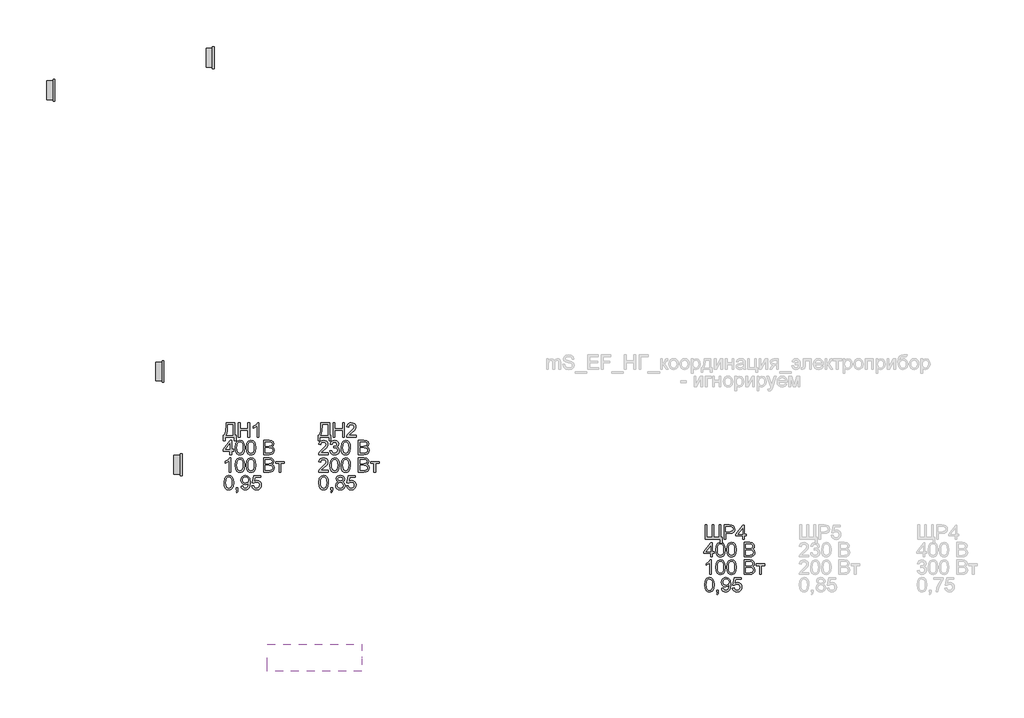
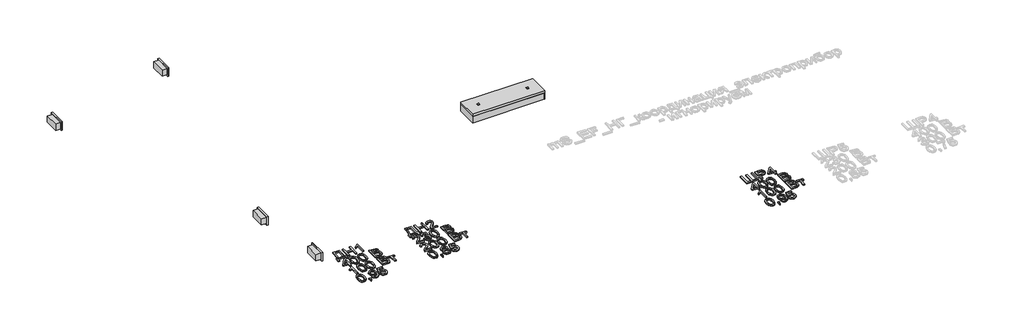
# One storey, part 1 of 3: 7 proxies, 1 light fixture.
"""IFC4 building model written with IfcOpenShell, lengths in millimetres."""

from ifc_helpers import new_model, si_unit, origin, origin_with_axes, place, context, project, spatial, polyline, outline, extrude, transform, mapped, element, save
from components import electrical_fixtures_f98252bb, light_fixture_827c025e

model = new_model("IFC4")

# Units and contexts
model_context = context("Model", 3, world=origin())
ifc_project = project(units=[si_unit("LENGTHUNIT", "METRE", prefix="MILLI")], contexts=[model_context])

# Site, building, storey
site = spatial("IfcSite", under=ifc_project)
building = spatial("IfcBuilding", under=site)
storey = spatial("IfcBuildingStorey", under=building, Name="Координационный план", Elevation=0.0)

# Proxies
placement = place(None, origin())
element("IfcBuildingElementProxy", 1, Name="100 мм Arial 2", ObjectType="100 мм Arial 2", at=placement, inside=storey, context=model_context, shape_type="SweptSolid", body=[
    extrude(outline(polyline([(15244.6100948, 1779.9187079), (15257.1671335, 1779.9187079), (15257.1671335, 1692.0194365), (15293.26862, 1692.0194365), (15293.26862, 1779.9187079), (15305.8256588, 1779.9187079), (15305.8256588, 1692.0194365), (15341.9271452, 1692.0194365), (15341.9271452, 1779.9187079), (15354.484184, 1779.9187079), (15354.484184, 1692.0194365), (15363.9019631, 1692.0194365), (15363.9019631, 1651.2090605), (15351.3449243, 1651.2090605), (15351.3449243, 1679.4623977), (15244.6100948, 1679.4623977), (15244.6100948, 1779.9187079)])), origin_with_axes(), (0.0, 0.0, 1.0), 10.0),
    extrude(outline(polyline([(15376.4590019, 1679.4623977), (15376.4590019, 1779.9187079), (15413.6886598, 1779.9187079), (15428.6982452, 1778.9622147), (15440.8996647, 1774.2655879), (15448.8091276, 1764.5535032), (15451.8012345, 1750.8560303), (15449.7809492, 1739.0163614), (15443.7200933, 1729.1509926), (15432.3862622, 1722.4923284), (15414.5470511, 1720.2727737), (15389.0160406, 1720.2727737), (15389.0160406, 1679.4623977), (15376.4590019, 1679.4623977)]), holes=[polyline([(15389.0160406, 1732.8298125), (15415.2828151, 1732.8298125), (15433.7750167, 1737.4406002), (15437.8769009, 1742.9894869), (15439.2441957, 1750.4145719), (15436.0190969, 1760.8133696), (15427.5455482, 1766.5032778), (15414.9885095, 1767.3616691), (15389.0160406, 1767.3616691), (15389.0160406, 1732.8298125)])]), origin_with_axes(), (0.0, 0.0, 1.0), 10.0),
    extrude(outline(polyline([(15505.1686492, 1679.4623977), (15505.1686492, 1703.0068454), (15459.6493837, 1703.0068454), (15459.6493837, 1715.5638842), (15508.3079089, 1778.349078), (15517.725688, 1778.349078), (15517.725688, 1715.5638842), (15530.2827268, 1715.5638842), (15530.2827268, 1703.0068454), (15517.725688, 1703.0068454), (15517.725688, 1679.4623977), (15505.1686492, 1679.4623977)]), holes=[polyline([(15505.1686492, 1715.5638842), (15505.1686492, 1754.363172), (15475.1004275, 1715.5638842), (15505.1686492, 1715.5638842)])]), origin_with_axes(), (0.0, 0.0, 1.0), 10.0),
    extrude(outline(polyline([(15282.2812111, 1557.4875799), (15282.2812111, 1581.0320276), (15236.7619456, 1581.0320276), (15236.7619456, 1593.5890664), (15285.4204708, 1656.3742602), (15294.8382499, 1656.3742602), (15294.8382499, 1593.5890664), (15307.3952886, 1593.5890664), (15307.3952886, 1581.0320276), (15294.8382499, 1581.0320276), (15294.8382499, 1557.4875799), (15282.2812111, 1557.4875799)]), holes=[polyline([(15282.2812111, 1593.5890664), (15282.2812111, 1632.3883541), (15252.2129893, 1593.5890664), (15282.2812111, 1593.5890664)])]), origin_with_axes(), (0.0, 0.0, 1.0), 10.0),
    extrude(outline(polyline([(15318.3826975, 1606.9063946), (15322.0737802, 1635.8096567), (15333.0366637, 1652.474711), (15351.3449243, 1657.94389), (15366.0111532, 1654.7065285), (15376.1401708, 1645.3745885), (15382.0262827, 1630.5121559), (15384.3071511, 1606.9063946), (15380.6528566, 1578.1257598), (15369.7267613, 1561.4239172), (15361.4954017, 1557.2944418), (15351.3449243, 1555.91795), (15338.2973762, 1558.309183), (15328.3890878, 1565.4828819), (15320.8842951, 1582.4728987), (15318.3826975, 1606.9063946)]), holes=[polyline([(15330.9397363, 1606.93092), (15332.4112643, 1587.1787226), (15336.8258482, 1575.7467896), (15343.3986732, 1570.292939), (15351.3449243, 1568.4749888), (15359.2911754, 1570.2990704), (15365.8640004, 1575.7713151), (15370.2785843, 1587.2093794), (15371.7501123, 1606.93092), (15370.3276353, 1626.2385934), (15366.0602041, 1637.7594312), (15359.4996419, 1643.4799963), (15351.1977715, 1645.3868513), (15343.3373596, 1643.7068568), (15337.022052, 1638.6668735), (15332.4603152, 1626.4286658), (15330.9397363, 1606.93092)])]), origin_with_axes(), (0.0, 0.0, 1.0), 10.0),
    extrude(outline(polyline([(15395.29456, 1606.9063946), (15398.9856427, 1635.8096567), (15409.9485261, 1652.474711), (15428.2567868, 1657.94389), (15442.9230156, 1654.7065285), (15453.0520332, 1645.3745885), (15458.9381452, 1630.5121559), (15461.2190135, 1606.9063946), (15457.5647191, 1578.1257598), (15446.6386238, 1561.4239172), (15438.4072642, 1557.2944418), (15428.2567868, 1555.91795), (15415.2092387, 1558.309183), (15405.3009503, 1565.4828819), (15397.7961576, 1582.4728987), (15395.29456, 1606.9063946)]), holes=[polyline([(15407.8515988, 1606.93092), (15409.3231268, 1587.1787226), (15413.7377107, 1575.7467896), (15420.3105357, 1570.292939), (15428.2567868, 1568.4749888), (15436.2030379, 1570.2990704), (15442.7758628, 1575.7713151), (15447.1904468, 1587.2093794), (15448.6619748, 1606.93092), (15447.2394977, 1626.2385934), (15442.9720666, 1637.7594312), (15436.4115043, 1643.4799963), (15428.109634, 1645.3868513), (15420.249222, 1643.7068568), (15413.9339144, 1638.6668735), (15409.3721777, 1626.4286658), (15407.8515988, 1606.93092)])]), origin_with_axes(), (0.0, 0.0, 1.0), 10.0),
    extrude(outline(polyline([(15516.1560582, 1557.4875799), (15516.1560582, 1657.94389), (15554.4893621, 1657.94389), (15573.2636065, 1654.9885713), (15584.3491173, 1645.9018861), (15588.3590311, 1633.0505417), (15584.9867795, 1621.3151061), (15574.7964482, 1612.4246245), (15587.169546, 1603.0558964), (15591.4982908, 1587.4331743), (15588.5429721, 1573.9319051), (15581.2221204, 1564.3179223), (15570.2960251, 1559.2166253), (15554.1950565, 1557.4875799), (15516.1560582, 1557.4875799)]), holes=[polyline([(15528.7130969, 1617.133514), (15551.644408, 1617.133514), (15565.0353126, 1618.2126346), (15573.0919283, 1622.8602104), (15575.8019923, 1631.0394535), (15573.2758693, 1639.2309592), (15566.0408567, 1644.0747388), (15549.9030998, 1645.3868513), (15528.7130969, 1645.3868513), (15528.7130969, 1617.133514)]), polyline([(15528.7130969, 1570.0446187), (15554.4648366, 1570.0446187), (15563.7845138, 1570.535128), (15571.6694512, 1573.2697175), (15576.8933756, 1578.8492611), (15578.941252, 1587.310547), (15576.5377563, 1597.0716826), (15568.7509207, 1602.8964808), (15553.2385633, 1604.5764753), (15528.7130969, 1604.5764753), (15528.7130969, 1570.0446187)])]), origin_with_axes(), (0.0, 0.0, 1.0), 10.0),
    extrude(outline(polyline([(15288.5597305, 1435.512762), (15276.0026917, 1435.512762), (15276.0026917, 1513.7980506), (15264.1078405, 1505.324502), (15250.8886142, 1498.984669), (15250.8886142, 1510.8549947), (15269.2949767, 1522.602693), (15280.4663266, 1535.9690722), (15288.5597305, 1535.9690722), (15288.5597305, 1435.512762)])), origin_with_axes(), (0.0, 0.0, 1.0), 10.0),
    extrude(outline(polyline([(15318.3826975, 1484.9315767), (15322.0737802, 1513.8348388), (15333.0366637, 1530.4998932), (15351.3449243, 1535.9690722), (15366.0111532, 1532.7317106), (15376.1401708, 1523.3997707), (15382.0262827, 1508.5373381), (15384.3071511, 1484.9315767), (15380.6528566, 1456.150942), (15369.7267613, 1439.4490994), (15361.4954017, 1435.319624), (15351.3449243, 1433.9431322), (15338.2973762, 1436.3343652), (15328.3890878, 1443.5080641), (15320.8842951, 1460.4980809), (15318.3826975, 1484.9315767)]), holes=[polyline([(15330.9397363, 1484.9561022), (15332.4112643, 1465.2039047), (15336.8258482, 1453.7719717), (15343.3986732, 1448.3181212), (15351.3449243, 1446.500171), (15359.2911754, 1448.3242525), (15365.8640004, 1453.7964972), (15370.2785843, 1465.2345616), (15371.7501123, 1484.9561022), (15370.3276353, 1504.2637756), (15366.0602041, 1515.7846134), (15359.4996419, 1521.5051784), (15351.1977715, 1523.4120334), (15343.3373596, 1521.732039), (15337.022052, 1516.6920557), (15332.4603152, 1504.4538479), (15330.9397363, 1484.9561022)])]), origin_with_axes(), (0.0, 0.0, 1.0), 10.0),
    extrude(outline(polyline([(15395.29456, 1484.9315767), (15398.9856427, 1513.8348388), (15409.9485261, 1530.4998932), (15428.2567868, 1535.9690722), (15442.9230156, 1532.7317106), (15453.0520332, 1523.3997707), (15458.9381452, 1508.5373381), (15461.2190135, 1484.9315767), (15457.5647191, 1456.150942), (15446.6386238, 1439.4490994), (15438.4072642, 1435.319624), (15428.2567868, 1433.9431322), (15415.2092387, 1436.3343652), (15405.3009503, 1443.5080641), (15397.7961576, 1460.4980809), (15395.29456, 1484.9315767)]), holes=[polyline([(15407.8515988, 1484.9561022), (15409.3231268, 1465.2039047), (15413.7377107, 1453.7719717), (15420.3105357, 1448.3181212), (15428.2567868, 1446.500171), (15436.2030379, 1448.3242525), (15442.7758628, 1453.7964972), (15447.1904468, 1465.2345616), (15448.6619748, 1484.9561022), (15447.2394977, 1504.2637756), (15442.9720666, 1515.7846134), (15436.4115043, 1521.5051784), (15428.109634, 1523.4120334), (15420.249222, 1521.732039), (15413.9339144, 1516.6920557), (15409.3721777, 1504.4538479), (15407.8515988, 1484.9561022)])]), origin_with_axes(), (0.0, 0.0, 1.0), 10.0),
    extrude(outline(polyline([(15516.1560582, 1435.512762), (15516.1560582, 1535.9690722), (15554.4893621, 1535.9690722), (15573.2636065, 1533.0137535), (15584.3491173, 1523.9270682), (15588.3590311, 1511.0757239), (15584.9867795, 1499.3402882), (15574.7964482, 1490.4498067), (15587.169546, 1481.0810785), (15591.4982908, 1465.4583565), (15588.5429721, 1451.9570872), (15581.2221204, 1442.3431044), (15570.2960251, 1437.2418074), (15554.1950565, 1435.512762), (15516.1560582, 1435.512762)]), holes=[polyline([(15528.7130969, 1495.1586962), (15551.644408, 1495.1586962), (15565.0353126, 1496.2378167), (15573.0919283, 1500.8853926), (15575.8019923, 1509.0646356), (15573.2758693, 1517.2561414), (15566.0408567, 1522.099921), (15549.9030998, 1523.4120334), (15528.7130969, 1523.4120334), (15528.7130969, 1495.1586962)]), polyline([(15528.7130969, 1448.0698008), (15554.4648366, 1448.0698008), (15563.7845138, 1448.5603101), (15571.6694512, 1451.2948996), (15576.8933756, 1456.8744432), (15578.941252, 1465.3357291), (15576.5377563, 1475.0968647), (15568.7509207, 1480.921663), (15553.2385633, 1482.6016574), (15528.7130969, 1482.6016574), (15528.7130969, 1448.0698008)])]), origin_with_axes(), (0.0, 0.0, 1.0), 10.0),
    extrude(outline(polyline([(15600.9160698, 1509.2853648), (15660.562004, 1509.2853648), (15660.562004, 1496.728326), (15637.0175563, 1496.728326), (15637.0175563, 1435.512762), (15624.4605175, 1435.512762), (15624.4605175, 1496.728326), (15600.9160698, 1496.728326), (15600.9160698, 1509.2853648)])), origin_with_axes(), (0.0, 0.0, 1.0), 10.0),
    extrude(outline(polyline([(15241.4708351, 1362.9567589), (15245.1619178, 1391.860021), (15256.1248012, 1408.5250754), (15274.4330619, 1413.9942544), (15289.0992907, 1410.7568928), (15299.2283083, 1401.4249529), (15305.1144203, 1386.5625202), (15307.3952886, 1362.9567589), (15303.7409941, 1334.1761241), (15292.8148989, 1317.4742816), (15284.5835392, 1313.3448062), (15274.4330619, 1311.9683144), (15261.3855138, 1314.3595473), (15251.4772254, 1321.5332462), (15243.9724327, 1338.523263), (15241.4708351, 1362.9567589)]), holes=[polyline([(15254.0278739, 1362.9812844), (15255.4994018, 1343.2290869), (15259.9139858, 1331.7971539), (15266.4868108, 1326.3433033), (15274.4330619, 1324.5253531), (15282.379313, 1326.3494347), (15288.9521379, 1331.8216794), (15293.3667219, 1343.2597437), (15294.8382499, 1362.9812844), (15293.4157728, 1382.2889577), (15289.1483417, 1393.8097956), (15282.5877794, 1399.5303606), (15274.2859091, 1401.4372156), (15266.4254971, 1399.7572211), (15260.1101895, 1394.7172378), (15255.5484528, 1382.4790301), (15254.0278739, 1362.9812844)])]), origin_with_axes(), (0.0, 0.0, 1.0), 10.0),
    extrude(outline(polyline([(15324.6612169, 1313.5379442), (15324.6612169, 1326.094983), (15337.2182557, 1326.094983), (15337.2182557, 1313.5379442), (15334.9619128, 1300.6988626), (15327.8004766, 1293.1327562), (15324.6612169, 1297.8416457), (15329.2720046, 1303.2617738), (15330.9152108, 1313.5379442), (15324.6612169, 1313.5379442)])), origin_with_axes(), (0.0, 0.0, 1.0), 10.0),
    extrude(outline(polyline([(15359.1930735, 1338.6520217), (15371.7501123, 1340.2216516), (15377.3909696, 1328.2409613), (15388.0840729, 1324.5253531), (15398.2498787, 1326.9165861), (15405.1415347, 1333.3054701), (15409.2495504, 1344.2193026), (15411.0644349, 1358.7874296), (15410.9908585, 1361.2399762), (15400.94768, 1351.7240953), (15387.1766306, 1348.0698008), (15375.7263035, 1350.3016183), (15366.1950942, 1356.9970706), (15359.7663563, 1367.340686), (15357.6234437, 1380.5169928), (15359.8705896, 1394.1286266), (15366.6120271, 1404.7972045), (15376.737979, 1411.6949919), (15389.138668, 1413.9942544), (15407.0299957, 1408.7458046), (15419.3417798, 1393.7852701), (15423.5478972, 1365.6790857), (15419.3540425, 1335.1816683), (15414.1393152, 1325.1906064), (15406.8828429, 1317.9034772), (15397.8973251, 1313.4521051), (15387.4954617, 1311.9683144), (15376.7594388, 1313.7188195), (15368.1939197, 1318.970335), (15362.2035745, 1327.391767), (15359.1930735, 1338.6520217)]), holes=[polyline([(15410.9908585, 1380.8112984), (15409.6358265, 1389.3216352), (15405.5707304, 1395.8699347), (15399.2615542, 1400.0453954), (15391.1742817, 1401.4372156), (15382.7865722, 1399.9380965), (15376.0665944, 1395.4407391), (15371.6520104, 1388.5582801), (15370.1804825, 1379.9038561), (15371.5723027, 1372.1446117), (15375.7477633, 1365.985654), (15382.3021942, 1361.9665432), (15390.8309251, 1360.6268396), (15405.313213, 1365.985654), (15409.5714471, 1372.3714723), (15410.9908585, 1380.8112984)])]), origin_with_axes(), (0.0, 0.0, 1.0), 10.0),
    extrude(outline(polyline([(15434.5353062, 1340.2216516), (15447.0923449, 1341.7912814), (15453.4199152, 1328.8540979), (15466.5410397, 1324.5253531), (15475.5418859, 1326.0306036), (15482.2863891, 1330.5463551), (15486.498638, 1337.5514414), (15487.9027209, 1346.5246964), (15482.6420084, 1361.43618), (15476.0354609, 1365.5380642), (15466.7372435, 1366.905359), (15455.7130463, 1364.7225925), (15448.6619748, 1359.0572097), (15436.104936, 1360.6268396), (15447.0923449, 1412.4246245), (15495.7508702, 1412.4246245), (15495.7508702, 1399.8675857), (15457.245888, 1399.8675857), (15451.8748109, 1372.2028597), (15460.8450002, 1377.6475132), (15470.2443852, 1379.4623977), (15481.9767551, 1377.2121862), (15491.7164309, 1370.4615516), (15498.2739275, 1360.1731185), (15500.4597597, 1347.3095114), (15498.491591, 1334.7524726), (15492.587085, 1324.0103183), (15481.280845, 1314.9788154), (15466.4919888, 1311.9683144), (15454.1587449, 1313.9027605), (15444.33323, 1319.706099), (15437.5979238, 1328.7038795), (15434.5353062, 1340.2216516)])), origin_with_axes(), (0.0, 0.0, 1.0), 10.0),
])
element("IfcBuildingElementProxy", 2, Name="100 мм Arial 2", ObjectType="100 мм Arial 2", at=placement, inside=storey, context=model_context, shape_type="SweptSolid", body=[
    extrude(outline(polyline([(11910.3327092, 2490.9766905), (11969.9786433, 2490.9766905), (11969.9786433, 2403.0774191), (11979.3964224, 2403.0774191), (11979.3964224, 2366.9759326), (11966.8393837, 2366.9759326), (11966.8393837, 2390.5203803), (11902.48456, 2390.5203803), (11902.48456, 2366.9759326), (11889.9275212, 2366.9759326), (11889.9275212, 2403.0774191), (11897.7756704, 2403.0774191), (11907.1934495, 2430.4907591), (11910.3327092, 2476.4330889), (11910.3327092, 2490.9766905)]), holes=[polyline([(11957.4216046, 2478.4196517), (11922.889748, 2478.4196517), (11922.889748, 2473.3674057), (11920.3390995, 2438.9581764), (11916.5621776, 2419.0741545), (11910.3327092, 2403.0774191), (11957.4216046, 2403.0774191), (11957.4216046, 2478.4196517)])]), origin_with_axes(), (0.0, 0.0, 1.0), 10.0),
    extrude(outline(polyline([(11995.0927209, 2390.5203803), (11995.0927209, 2490.9766905), (12007.6497597, 2490.9766905), (12007.6497597, 2450.1663145), (12061.0171744, 2450.1663145), (12061.0171744, 2490.9766905), (12073.5742132, 2490.9766905), (12073.5742132, 2390.5203803), (12061.0171744, 2390.5203803), (12061.0171744, 2437.6092757), (12007.6497597, 2437.6092757), (12007.6497597, 2390.5203803), (11995.0927209, 2390.5203803)])), origin_with_axes(), (0.0, 0.0, 1.0), 10.0),
    extrude(outline(polyline([(12137.9290369, 2390.5203803), (12125.3719981, 2390.5203803), (12125.3719981, 2468.8056689), (12113.4771469, 2460.3321203), (12100.2579206, 2453.9922872), (12100.2579206, 2465.8626129), (12118.6642831, 2477.6103113), (12129.835633, 2490.9766905), (12137.9290369, 2490.9766905), (12137.9290369, 2390.5203803)])), origin_with_axes(), (0.0, 0.0, 1.0), 10.0),
    extrude(outline(polyline([(11937.0164166, 2268.5455625), (11937.0164166, 2292.0900102), (11891.497151, 2292.0900102), (11891.497151, 2304.647049), (11940.1556763, 2367.4322428), (11949.5734553, 2367.4322428), (11949.5734553, 2304.647049), (11962.1304941, 2304.647049), (11962.1304941, 2292.0900102), (11949.5734553, 2292.0900102), (11949.5734553, 2268.5455625), (11937.0164166, 2268.5455625)]), holes=[polyline([(11937.0164166, 2304.647049), (11937.0164166, 2343.4463367), (11906.9481948, 2304.647049), (11937.0164166, 2304.647049)])]), origin_with_axes(), (0.0, 0.0, 1.0), 10.0),
    extrude(outline(polyline([(11973.117903, 2317.9643772), (11976.8089857, 2346.8676393), (11987.7718692, 2363.5326936), (12006.0801298, 2369.0018726), (12020.7463587, 2365.7645111), (12030.8753763, 2356.4325711), (12036.7614882, 2341.5701385), (12039.0423566, 2317.9643772), (12035.3880621, 2289.1837424), (12024.4619668, 2272.4818998), (12016.2306072, 2268.3524244), (12006.0801298, 2266.9759326), (11993.0325817, 2269.3671656), (11983.1242933, 2276.5408645), (11975.6195006, 2293.5308813), (11973.117903, 2317.9643772)]), holes=[polyline([(11985.6749418, 2317.9889026), (11987.1464698, 2298.2367052), (11991.5610537, 2286.8047722), (11998.1338787, 2281.3509216), (12006.0801298, 2279.5329714), (12014.0263809, 2281.357053), (12020.5992059, 2286.8292977), (12025.0137898, 2298.267362), (12026.4853178, 2317.9889026), (12025.0628408, 2337.296576), (12020.7954096, 2348.8174138), (12014.2348474, 2354.5379789), (12005.932977, 2356.4448339), (11998.072565, 2354.7648394), (11991.7572575, 2349.7248561), (11987.1955207, 2337.4866484), (11985.6749418, 2317.9889026)])]), origin_with_axes(), (0.0, 0.0, 1.0), 10.0),
    extrude(outline(polyline([(12050.0297655, 2317.9643772), (12053.7208482, 2346.8676393), (12064.6837316, 2363.5326936), (12082.9919923, 2369.0018726), (12097.6582211, 2365.7645111), (12107.7872387, 2356.4325711), (12113.6733507, 2341.5701385), (12115.954219, 2317.9643772), (12112.2999245, 2289.1837424), (12101.3738293, 2272.4818998), (12093.1424696, 2268.3524244), (12082.9919923, 2266.9759326), (12069.9444442, 2269.3671656), (12060.0361558, 2276.5408645), (12052.5313631, 2293.5308813), (12050.0297655, 2317.9643772)]), holes=[polyline([(12062.5868043, 2317.9889026), (12064.0583322, 2298.2367052), (12068.4729162, 2286.8047722), (12075.0457412, 2281.3509216), (12082.9919923, 2279.5329714), (12090.9382434, 2281.357053), (12097.5110683, 2286.8292977), (12101.9256523, 2298.267362), (12103.3971803, 2317.9889026), (12101.9747032, 2337.296576), (12097.7072721, 2348.8174138), (12091.1467098, 2354.5379789), (12082.8448395, 2356.4448339), (12074.9844275, 2354.7648394), (12068.6691199, 2349.7248561), (12064.1073832, 2337.4866484), (12062.5868043, 2317.9889026)])]), origin_with_axes(), (0.0, 0.0, 1.0), 10.0),
    extrude(outline(polyline([(12170.8912636, 2268.5455625), (12170.8912636, 2369.0018726), (12209.2245675, 2369.0018726), (12227.998812, 2366.0465539), (12239.0843228, 2356.9598687), (12243.0942366, 2344.1085243), (12239.7219849, 2332.3730887), (12229.5316537, 2323.4826071), (12241.9047514, 2314.113879), (12246.2334963, 2298.4911569), (12243.2781776, 2284.9898877), (12235.9573259, 2275.3759049), (12225.0312306, 2270.2746079), (12208.9302619, 2268.5455625), (12170.8912636, 2268.5455625)]), holes=[polyline([(12183.4483024, 2328.1914966), (12206.3796134, 2328.1914966), (12219.7705181, 2329.2706172), (12227.8271338, 2333.918193), (12230.5371978, 2342.0974361), (12228.0110748, 2350.2889418), (12220.7760622, 2355.1327214), (12204.6383053, 2356.4448339), (12183.4483024, 2356.4448339), (12183.4483024, 2328.1914966)]), polyline([(12183.4483024, 2281.1026013), (12209.2000421, 2281.1026013), (12218.5197193, 2281.5931106), (12226.4046567, 2284.3277001), (12231.628581, 2289.9072437), (12233.6764575, 2298.3685296), (12231.2729618, 2308.1296652), (12223.4861262, 2313.9544634), (12207.9737688, 2315.6344579), (12183.4483024, 2315.6344579), (12183.4483024, 2281.1026013)])]), origin_with_axes(), (0.0, 0.0, 1.0), 10.0),
    extrude(outline(polyline([(11943.294936, 2146.5707446), (11930.7378972, 2146.5707446), (11930.7378972, 2224.8560332), (11918.843046, 2216.3824846), (11905.6238197, 2210.0426515), (11905.6238197, 2221.9129773), (11924.0301821, 2233.6606756), (11935.2015321, 2247.0270548), (11943.294936, 2247.0270548), (11943.294936, 2146.5707446)])), origin_with_axes(), (0.0, 0.0, 1.0), 10.0),
    extrude(outline(polyline([(11973.117903, 2195.9895593), (11976.8089857, 2224.8928214), (11987.7718692, 2241.5578758), (12006.0801298, 2247.0270548), (12020.7463587, 2243.7896932), (12030.8753763, 2234.4577533), (12036.7614882, 2219.5953207), (12039.0423566, 2195.9895593), (12035.3880621, 2167.2089246), (12024.4619668, 2150.507082), (12016.2306072, 2146.3776066), (12006.0801298, 2145.0011148), (11993.0325817, 2147.3923478), (11983.1242933, 2154.5660467), (11975.6195006, 2171.5560635), (11973.117903, 2195.9895593)]), holes=[polyline([(11985.6749418, 2196.0140848), (11987.1464698, 2176.2618873), (11991.5610537, 2164.8299543), (11998.1338787, 2159.3761038), (12006.0801298, 2157.5581536), (12014.0263809, 2159.3822351), (12020.5992059, 2164.8544798), (12025.0137898, 2176.2925442), (12026.4853178, 2196.0140848), (12025.0628408, 2215.3217582), (12020.7954096, 2226.842596), (12014.2348474, 2232.563161), (12005.932977, 2234.470016), (11998.072565, 2232.7900216), (11991.7572575, 2227.7500382), (11987.1955207, 2215.5118305), (11985.6749418, 2196.0140848)])]), origin_with_axes(), (0.0, 0.0, 1.0), 10.0),
    extrude(outline(polyline([(12050.0297655, 2195.9895593), (12053.7208482, 2224.8928214), (12064.6837316, 2241.5578758), (12082.9919923, 2247.0270548), (12097.6582211, 2243.7896932), (12107.7872387, 2234.4577533), (12113.6733507, 2219.5953207), (12115.954219, 2195.9895593), (12112.2999245, 2167.2089246), (12101.3738293, 2150.507082), (12093.1424696, 2146.3776066), (12082.9919923, 2145.0011148), (12069.9444442, 2147.3923478), (12060.0361558, 2154.5660467), (12052.5313631, 2171.5560635), (12050.0297655, 2195.9895593)]), holes=[polyline([(12062.5868043, 2196.0140848), (12064.0583322, 2176.2618873), (12068.4729162, 2164.8299543), (12075.0457412, 2159.3761038), (12082.9919923, 2157.5581536), (12090.9382434, 2159.3822351), (12097.5110683, 2164.8544798), (12101.9256523, 2176.2925442), (12103.3971803, 2196.0140848), (12101.9747032, 2215.3217582), (12097.7072721, 2226.842596), (12091.1467098, 2232.563161), (12082.8448395, 2234.470016), (12074.9844275, 2232.7900216), (12068.6691199, 2227.7500382), (12064.1073832, 2215.5118305), (12062.5868043, 2196.0140848)])]), origin_with_axes(), (0.0, 0.0, 1.0), 10.0),
    extrude(outline(polyline([(12170.8912636, 2146.5707446), (12170.8912636, 2247.0270548), (12209.2245675, 2247.0270548), (12227.998812, 2244.0717361), (12239.0843228, 2234.9850508), (12243.0942366, 2222.1337065), (12239.7219849, 2210.3982708), (12229.5316537, 2201.5077893), (12241.9047514, 2192.1390611), (12246.2334963, 2176.5163391), (12243.2781776, 2163.0150698), (12235.9573259, 2153.401087), (12225.0312306, 2148.29979), (12208.9302619, 2146.5707446), (12170.8912636, 2146.5707446)]), holes=[polyline([(12183.4483024, 2159.1277834), (12209.2000421, 2159.1277834), (12218.5197193, 2159.6182927), (12226.4046567, 2162.3528822), (12231.628581, 2167.9324258), (12233.6764575, 2176.3937117), (12231.2729618, 2186.1548473), (12223.4861262, 2191.9796456), (12207.9737688, 2193.65964), (12183.4483024, 2193.65964), (12183.4483024, 2159.1277834)]), polyline([(12183.4483024, 2206.2166788), (12206.3796134, 2206.2166788), (12219.7705181, 2207.2957993), (12227.8271338, 2211.9433752), (12230.5371978, 2220.1226182), (12228.0110748, 2228.314124), (12220.7760622, 2233.1579036), (12204.6383053, 2234.470016), (12183.4483024, 2234.470016), (12183.4483024, 2206.2166788)])]), origin_with_axes(), (0.0, 0.0, 1.0), 10.0),
    extrude(outline(polyline([(12255.6512753, 2220.3433474), (12315.2972095, 2220.3433474), (12315.2972095, 2207.7863086), (12291.7527618, 2207.7863086), (12291.7527618, 2146.5707446), (12279.195723, 2146.5707446), (12279.195723, 2207.7863086), (12255.6512753, 2207.7863086), (12255.6512753, 2220.3433474)])), origin_with_axes(), (0.0, 0.0, 1.0), 10.0),
    extrude(outline(polyline([(11896.2060406, 2074.0147415), (11899.8971233, 2102.9180036), (11910.8600067, 2119.583058), (11929.1682673, 2125.052237), (11943.8344962, 2121.8148754), (11953.9635138, 2112.4829354), (11959.8496257, 2097.6205028), (11962.1304941, 2074.0147415), (11958.4761996, 2045.2341067), (11947.5501044, 2028.5322641), (11939.3187447, 2024.4027888), (11929.1682673, 2023.026297), (11916.1207193, 2025.4175299), (11906.2124308, 2032.5912288), (11898.7076381, 2049.5812456), (11896.2060406, 2074.0147415)]), holes=[polyline([(11908.7630793, 2074.039267), (11910.2346073, 2054.2870695), (11914.6491913, 2042.8551365), (11921.2220163, 2037.4012859), (11929.1682673, 2035.5833357), (11937.1145184, 2037.4074173), (11943.6873434, 2042.879662), (11948.1019274, 2054.3177263), (11949.5734553, 2074.039267), (11948.1509783, 2093.3469403), (11943.8835472, 2104.8677781), (11937.3229849, 2110.5883432), (11929.0211145, 2112.4951982), (11921.1607026, 2110.8152037), (11914.845395, 2105.7752204), (11910.2836583, 2093.5370127), (11908.7630793, 2074.039267)])]), origin_with_axes(), (0.0, 0.0, 1.0), 10.0),
    extrude(outline(polyline([(11979.3964224, 2024.5959268), (11979.3964224, 2037.1529656), (11991.9534612, 2037.1529656), (11991.9534612, 2024.5959268), (11989.6971183, 2011.7568452), (11982.5356821, 2004.1907388), (11979.3964224, 2008.8996283), (11984.0072101, 2014.3197564), (11985.6504163, 2024.5959268), (11979.3964224, 2024.5959268)])), origin_with_axes(), (0.0, 0.0, 1.0), 10.0),
    extrude(outline(polyline([(12013.928279, 2049.7100043), (12026.4853178, 2051.2796342), (12032.1261751, 2039.2989439), (12042.8192784, 2035.5833357), (12052.9850842, 2037.9745687), (12059.8767402, 2044.3634527), (12063.9847558, 2055.2772852), (12065.7996404, 2069.8454122), (12065.726064, 2072.2979588), (12055.6828855, 2062.7820779), (12041.9118361, 2059.1277834), (12030.461509, 2061.3596009), (12020.9302997, 2068.0550532), (12014.5015618, 2078.3986686), (12012.3586492, 2091.5749754), (12014.605795, 2105.1866092), (12021.3472326, 2115.8551871), (12031.4731845, 2122.7529745), (12043.8738734, 2125.052237), (12061.7652011, 2119.8037872), (12074.0769852, 2104.8432527), (12078.2831027, 2076.7370683), (12074.089248, 2046.2396509), (12068.8745207, 2036.248589), (12061.6180483, 2028.9614598), (12052.6325306, 2024.5100877), (12042.2306672, 2023.026297), (12031.4946443, 2024.7768021), (12022.9291252, 2030.0283176), (12016.93878, 2038.4497496), (12013.928279, 2049.7100043)]), holes=[polyline([(12065.726064, 2091.869281), (12064.3710319, 2100.3796178), (12060.3059359, 2106.9279173), (12053.9967597, 2111.103378), (12045.9094872, 2112.4951982), (12037.5217777, 2110.9960791), (12030.8017999, 2106.4987217), (12026.3872159, 2099.6162627), (12024.915688, 2090.9618387), (12026.3075082, 2083.2025943), (12030.4829688, 2077.0436366), (12037.0373997, 2073.0245258), (12045.5661306, 2071.6848222), (12060.0484185, 2077.0436366), (12064.3066526, 2083.4294549), (12065.726064, 2091.869281)])]), origin_with_axes(), (0.0, 0.0, 1.0), 10.0),
    extrude(outline(polyline([(12089.2705116, 2051.2796342), (12101.8275504, 2052.849264), (12108.1551207, 2039.9120805), (12121.2762452, 2035.5833357), (12130.2770914, 2037.0885862), (12137.0215946, 2041.6043377), (12141.2338435, 2048.609424), (12142.6379264, 2057.582679), (12137.3772139, 2072.4941626), (12130.7706664, 2076.5960468), (12121.472449, 2077.9633416), (12110.4482518, 2075.7805751), (12103.3971803, 2070.1151923), (12090.8401415, 2071.6848222), (12101.8275504, 2123.4826071), (12150.4860756, 2123.4826071), (12150.4860756, 2110.9255683), (12111.9810935, 2110.9255683), (12106.6100164, 2083.2608423), (12115.5802057, 2088.7054958), (12124.9795906, 2090.5203803), (12136.7119606, 2088.2701688), (12146.4516364, 2081.5195342), (12153.009133, 2071.2311011), (12155.1949652, 2058.367494), (12153.2267965, 2045.8104552), (12147.3222905, 2035.0683009), (12136.0160505, 2026.0367979), (12121.2271943, 2023.026297), (12108.8939504, 2024.9607431), (12099.0684355, 2030.7640816), (12092.3331293, 2039.7618621), (12089.2705116, 2051.2796342)])), origin_with_axes(), (0.0, 0.0, 1.0), 10.0),
])
element("IfcBuildingElementProxy", 3, Name="100 мм Arial 2", ObjectType="100 мм Arial 2", at=placement, inside=storey, context=model_context, shape_type="SweptSolid", body=[
    extrude(outline(polyline([(12570.3327092, 2490.9766905), (12629.9786433, 2490.9766905), (12629.9786433, 2403.0774191), (12639.3964224, 2403.0774191), (12639.3964224, 2366.9759326), (12626.8393837, 2366.9759326), (12626.8393837, 2390.5203803), (12562.48456, 2390.5203803), (12562.48456, 2366.9759326), (12549.9275212, 2366.9759326), (12549.9275212, 2403.0774191), (12557.7756704, 2403.0774191), (12567.1934495, 2430.4907591), (12570.3327092, 2476.4330889), (12570.3327092, 2490.9766905)]), holes=[polyline([(12617.4216046, 2478.4196517), (12582.889748, 2478.4196517), (12582.889748, 2473.3674057), (12580.3390995, 2438.9581764), (12576.5621776, 2419.0741545), (12570.3327092, 2403.0774191), (12617.4216046, 2403.0774191), (12617.4216046, 2478.4196517)])]), origin_with_axes(), (0.0, 0.0, 1.0), 10.0),
    extrude(outline(polyline([(12655.0927209, 2390.5203803), (12655.0927209, 2490.9766905), (12667.6497597, 2490.9766905), (12667.6497597, 2450.1663145), (12721.0171744, 2450.1663145), (12721.0171744, 2490.9766905), (12733.5742132, 2490.9766905), (12733.5742132, 2390.5203803), (12721.0171744, 2390.5203803), (12721.0171744, 2437.6092757), (12667.6497597, 2437.6092757), (12667.6497597, 2390.5203803), (12655.0927209, 2390.5203803)])), origin_with_axes(), (0.0, 0.0, 1.0), 10.0),
    extrude(outline(polyline([(12815.1949652, 2403.0774191), (12815.1949652, 2390.5203803), (12749.2705116, 2390.5203803), (12750.6194123, 2399.17787), (12758.2468323, 2412.5074609), (12773.9676563, 2427.0633252), (12795.6481685, 2447.983548), (12801.0682966, 2462.2083185), (12795.9547368, 2473.7230249), (12782.6006204, 2478.4196517), (12768.6824183, 2473.8333895), (12763.3971803, 2461.1537234), (12750.8401415, 2462.7233533), (12753.884365, 2474.8695905), (12760.466387, 2483.7416779), (12770.2428511, 2489.1679373), (12782.8704005, 2490.9766905), (12795.5899205, 2488.9656022), (12805.3479904, 2482.9323375), (12811.5559991, 2473.9192286), (12813.6253353, 2462.9686079), (12811.3935179, 2451.061494), (12803.9745643, 2438.7497099), (12785.9851348, 2421.5450953), (12771.5396351, 2409.4663031), (12765.8742524, 2403.0774191), (12815.1949652, 2403.0774191)])), origin_with_axes(), (0.0, 0.0, 1.0), 10.0),
    extrude(outline(polyline([(12620.5608643, 2281.1026013), (12620.5608643, 2268.5455625), (12554.6364107, 2268.5455625), (12555.9853114, 2277.2030521), (12563.6127314, 2290.5326431), (12579.3335553, 2305.0885073), (12601.0140676, 2326.0087301), (12606.4341957, 2340.2335006), (12601.3206359, 2351.7482071), (12587.9665195, 2356.4448339), (12574.0483173, 2351.8585717), (12568.7630793, 2339.1789056), (12556.2060406, 2340.7485354), (12559.2502641, 2352.8947726), (12565.8322861, 2361.7668601), (12575.6087501, 2367.1931195), (12588.2362996, 2369.0018726), (12600.9558196, 2366.9907844), (12610.7138895, 2360.9575197), (12616.9218982, 2351.9444108), (12618.9912344, 2340.9937901), (12616.759417, 2329.0866762), (12609.3404634, 2316.7748921), (12591.3510339, 2299.5702774), (12576.9055342, 2287.4914852), (12571.2401514, 2281.1026013), (12620.5608643, 2281.1026013)])), origin_with_axes(), (0.0, 0.0, 1.0), 10.0),
    extrude(outline(polyline([(12633.117903, 2295.2292699), (12645.6749418, 2296.7988997), (12652.603386, 2283.5796734), (12665.565095, 2279.5329714), (12674.1735337, 2280.9247916), (12680.8199351, 2285.1002523), (12686.4853178, 2298.8835644), (12680.868986, 2311.8697988), (12666.5951646, 2317.007884), (12657.7905222, 2315.6344579), (12659.1884738, 2328.1914966), (12661.199562, 2328.0443438), (12675.4488579, 2331.6495874), (12680.1945357, 2336.2235869), (12681.7764283, 2342.7350982), (12677.1901661, 2352.5575475), (12665.3688913, 2356.4448339), (12653.4004637, 2352.5207593), (12647.2445717, 2340.7485354), (12634.6875329, 2342.3181653), (12638.3847469, 2353.5937484), (12644.9637033, 2362.0121147), (12653.9645494, 2367.2544332), (12664.9274329, 2369.0018726), (12680.0719084, 2365.5560446), (12690.6669098, 2356.1382655), (12694.333467, 2343.4708622), (12690.8508508, 2331.8948421), (12680.5501549, 2323.580709), (12694.2353652, 2314.9967957), (12699.0423566, 2298.6628352), (12696.6388609, 2286.4246275), (12689.4283738, 2276.197508), (12678.5451981, 2269.2813265), (12665.1236366, 2266.9759326), (12652.9835308, 2268.9441013), (12643.0997678, 2274.8486073), (12636.2265059, 2283.8801103), (12633.117903, 2295.2292699)])), origin_with_axes(), (0.0, 0.0, 1.0), 10.0),
    extrude(outline(polyline([(12710.0297655, 2317.9643772), (12713.7208482, 2346.8676393), (12724.6837316, 2363.5326936), (12742.9919923, 2369.0018726), (12757.6582211, 2365.7645111), (12767.7872387, 2356.4325711), (12773.6733507, 2341.5701385), (12775.954219, 2317.9643772), (12772.2999245, 2289.1837424), (12761.3738293, 2272.4818998), (12753.1424696, 2268.3524244), (12742.9919923, 2266.9759326), (12729.9444442, 2269.3671656), (12720.0361558, 2276.5408645), (12712.5313631, 2293.5308813), (12710.0297655, 2317.9643772)]), holes=[polyline([(12722.5868043, 2317.9889026), (12724.0583322, 2298.2367052), (12728.4729162, 2286.8047722), (12735.0457412, 2281.3509216), (12742.9919923, 2279.5329714), (12750.9382434, 2281.357053), (12757.5110683, 2286.8292977), (12761.9256523, 2298.267362), (12763.3971803, 2317.9889026), (12761.9747032, 2337.296576), (12757.7072721, 2348.8174138), (12751.1467098, 2354.5379789), (12742.8448395, 2356.4448339), (12734.9844275, 2354.7648394), (12728.6691199, 2349.7248561), (12724.1073832, 2337.4866484), (12722.5868043, 2317.9889026)])]), origin_with_axes(), (0.0, 0.0, 1.0), 10.0),
    extrude(outline(polyline([(12830.8912636, 2268.5455625), (12830.8912636, 2369.0018726), (12869.2245675, 2369.0018726), (12887.998812, 2366.0465539), (12899.0843228, 2356.9598687), (12903.0942366, 2344.1085243), (12899.7219849, 2332.3730887), (12889.5316537, 2323.4826071), (12901.9047514, 2314.113879), (12906.2334963, 2298.4911569), (12903.2781776, 2284.9898877), (12895.9573259, 2275.3759049), (12885.0312306, 2270.2746079), (12868.9302619, 2268.5455625), (12830.8912636, 2268.5455625)]), holes=[polyline([(12843.4483024, 2328.1914966), (12866.3796134, 2328.1914966), (12879.7705181, 2329.2706172), (12887.8271338, 2333.918193), (12890.5371978, 2342.0974361), (12888.0110748, 2350.2889418), (12880.7760622, 2355.1327214), (12864.6383053, 2356.4448339), (12843.4483024, 2356.4448339), (12843.4483024, 2328.1914966)]), polyline([(12843.4483024, 2281.1026013), (12869.2000421, 2281.1026013), (12878.5197193, 2281.5931106), (12886.4046567, 2284.3277001), (12891.628581, 2289.9072437), (12893.6764575, 2298.3685296), (12891.2729618, 2308.1296652), (12883.4861262, 2313.9544634), (12867.9737688, 2315.6344579), (12843.4483024, 2315.6344579), (12843.4483024, 2281.1026013)])]), origin_with_axes(), (0.0, 0.0, 1.0), 10.0),
    extrude(outline(polyline([(12620.5608643, 2159.1277834), (12620.5608643, 2146.5707446), (12554.6364107, 2146.5707446), (12555.9853114, 2155.2282343), (12563.6127314, 2168.5578252), (12579.3335553, 2183.1136895), (12601.0140676, 2204.0339123), (12606.4341957, 2218.2586828), (12601.3206359, 2229.7733892), (12587.9665195, 2234.470016), (12574.0483173, 2229.8837538), (12568.7630793, 2217.2040877), (12556.2060406, 2218.7737176), (12559.2502641, 2230.9199548), (12565.8322861, 2239.7920422), (12575.6087501, 2245.2183017), (12588.2362996, 2247.0270548), (12600.9558196, 2245.0159666), (12610.7138895, 2238.9827018), (12616.9218982, 2229.969593), (12618.9912344, 2219.0189722), (12616.759417, 2207.1118583), (12609.3404634, 2194.8000742), (12591.3510339, 2177.5954596), (12576.9055342, 2165.5166674), (12571.2401514, 2159.1277834), (12620.5608643, 2159.1277834)])), origin_with_axes(), (0.0, 0.0, 1.0), 10.0),
    extrude(outline(polyline([(12633.117903, 2195.9895593), (12636.8089857, 2224.8928214), (12647.7718692, 2241.5578758), (12666.0801298, 2247.0270548), (12680.7463587, 2243.7896932), (12690.8753763, 2234.4577533), (12696.7614882, 2219.5953207), (12699.0423566, 2195.9895593), (12695.3880621, 2167.2089246), (12684.4619668, 2150.507082), (12676.2306072, 2146.3776066), (12666.0801298, 2145.0011148), (12653.0325817, 2147.3923478), (12643.1242933, 2154.5660467), (12635.6195006, 2171.5560635), (12633.117903, 2195.9895593)]), holes=[polyline([(12645.6749418, 2196.0140848), (12647.1464698, 2176.2618873), (12651.5610537, 2164.8299543), (12658.1338787, 2159.3761038), (12666.0801298, 2157.5581536), (12674.0263809, 2159.3822351), (12680.5992059, 2164.8544798), (12685.0137898, 2176.2925442), (12686.4853178, 2196.0140848), (12685.0628408, 2215.3217582), (12680.7954096, 2226.842596), (12674.2348474, 2232.563161), (12665.932977, 2234.470016), (12658.072565, 2232.7900216), (12651.7572575, 2227.7500382), (12647.1955207, 2215.5118305), (12645.6749418, 2196.0140848)])]), origin_with_axes(), (0.0, 0.0, 1.0), 10.0),
    extrude(outline(polyline([(12710.0297655, 2195.9895593), (12713.7208482, 2224.8928214), (12724.6837316, 2241.5578758), (12742.9919923, 2247.0270548), (12757.6582211, 2243.7896932), (12767.7872387, 2234.4577533), (12773.6733507, 2219.5953207), (12775.954219, 2195.9895593), (12772.2999245, 2167.2089246), (12761.3738293, 2150.507082), (12753.1424696, 2146.3776066), (12742.9919923, 2145.0011148), (12729.9444442, 2147.3923478), (12720.0361558, 2154.5660467), (12712.5313631, 2171.5560635), (12710.0297655, 2195.9895593)]), holes=[polyline([(12722.5868043, 2196.0140848), (12724.0583322, 2176.2618873), (12728.4729162, 2164.8299543), (12735.0457412, 2159.3761038), (12742.9919923, 2157.5581536), (12750.9382434, 2159.3822351), (12757.5110683, 2164.8544798), (12761.9256523, 2176.2925442), (12763.3971803, 2196.0140848), (12761.9747032, 2215.3217582), (12757.7072721, 2226.842596), (12751.1467098, 2232.563161), (12742.8448395, 2234.470016), (12734.9844275, 2232.7900216), (12728.6691199, 2227.7500382), (12724.1073832, 2215.5118305), (12722.5868043, 2196.0140848)])]), origin_with_axes(), (0.0, 0.0, 1.0), 10.0),
    extrude(outline(polyline([(12830.8912636, 2146.5707446), (12830.8912636, 2247.0270548), (12869.2245675, 2247.0270548), (12887.998812, 2244.0717361), (12899.0843228, 2234.9850508), (12903.0942366, 2222.1337065), (12899.7219849, 2210.3982708), (12889.5316537, 2201.5077893), (12901.9047514, 2192.1390611), (12906.2334963, 2176.5163391), (12903.2781776, 2163.0150698), (12895.9573259, 2153.401087), (12885.0312306, 2148.29979), (12868.9302619, 2146.5707446), (12830.8912636, 2146.5707446)]), holes=[polyline([(12843.4483024, 2159.1277834), (12869.2000421, 2159.1277834), (12878.5197193, 2159.6182927), (12886.4046567, 2162.3528822), (12891.628581, 2167.9324258), (12893.6764575, 2176.3937117), (12891.2729618, 2186.1548473), (12883.4861262, 2191.9796456), (12867.9737688, 2193.65964), (12843.4483024, 2193.65964), (12843.4483024, 2159.1277834)]), polyline([(12843.4483024, 2206.2166788), (12866.3796134, 2206.2166788), (12879.7705181, 2207.2957993), (12887.8271338, 2211.9433752), (12890.5371978, 2220.1226182), (12888.0110748, 2228.314124), (12880.7760622, 2233.1579036), (12864.6383053, 2234.470016), (12843.4483024, 2234.470016), (12843.4483024, 2206.2166788)])]), origin_with_axes(), (0.0, 0.0, 1.0), 10.0),
    extrude(outline(polyline([(12915.6512753, 2220.3433474), (12975.2972095, 2220.3433474), (12975.2972095, 2207.7863086), (12951.7527618, 2207.7863086), (12951.7527618, 2146.5707446), (12939.195723, 2146.5707446), (12939.195723, 2207.7863086), (12915.6512753, 2207.7863086), (12915.6512753, 2220.3433474)])), origin_with_axes(), (0.0, 0.0, 1.0), 10.0),
    extrude(outline(polyline([(12556.2060406, 2074.0147415), (12559.8971233, 2102.9180036), (12570.8600067, 2119.583058), (12589.1682673, 2125.052237), (12603.8344962, 2121.8148754), (12613.9635138, 2112.4829354), (12619.8496257, 2097.6205028), (12622.1304941, 2074.0147415), (12618.4761996, 2045.2341067), (12607.5501044, 2028.5322641), (12599.3187447, 2024.4027888), (12589.1682673, 2023.026297), (12576.1207193, 2025.4175299), (12566.2124308, 2032.5912288), (12558.7076381, 2049.5812456), (12556.2060406, 2074.0147415)]), holes=[polyline([(12568.7630793, 2074.039267), (12570.2346073, 2054.2870695), (12574.6491913, 2042.8551365), (12581.2220163, 2037.4012859), (12589.1682673, 2035.5833357), (12597.1145184, 2037.4074173), (12603.6873434, 2042.879662), (12608.1019274, 2054.3177263), (12609.5734553, 2074.039267), (12608.1509783, 2093.3469403), (12603.8835472, 2104.8677781), (12597.3229849, 2110.5883432), (12589.0211145, 2112.4951982), (12581.1607026, 2110.8152037), (12574.845395, 2105.7752204), (12570.2836583, 2093.5370127), (12568.7630793, 2074.039267)])]), origin_with_axes(), (0.0, 0.0, 1.0), 10.0),
    extrude(outline(polyline([(12639.3964224, 2024.5959268), (12639.3964224, 2037.1529656), (12651.9534612, 2037.1529656), (12651.9534612, 2024.5959268), (12649.6971183, 2011.7568452), (12642.5356821, 2004.1907388), (12639.3964224, 2008.8996283), (12644.0072101, 2014.3197564), (12645.6504163, 2024.5959268), (12639.3964224, 2024.5959268)])), origin_with_axes(), (0.0, 0.0, 1.0), 10.0),
    extrude(outline(polyline([(12690.6546471, 2079.9253789), (12679.213517, 2087.7244772), (12675.4979089, 2099.864583), (12677.5212599, 2109.6809009), (12683.5913128, 2117.7926989), (12693.027486, 2123.2373524), (12705.1491977, 2125.052237), (12717.3444858, 2123.1944329), (12726.9032863, 2117.6210206), (12733.0837039, 2109.380464), (12735.143843, 2099.5212265), (12731.4772858, 2087.687689), (12720.3549868, 2079.9253789), (12733.7091033, 2070.0784041), (12738.2831027, 2053.8302827), (12736.0144971, 2041.8250669), (12729.2086802, 2031.9045158), (12718.6995178, 2025.2458517), (12705.320876, 2023.026297), (12691.9422341, 2025.2550487), (12681.4330717, 2031.941304), (12674.6272548, 2041.9568913), (12672.3586492, 2054.1736392), (12677.1165897, 2070.8019054), (12690.6546471, 2079.9253789)]), holes=[polyline([(12688.0549477, 2099.496701), (12692.5063198, 2089.6374635), (12705.4680288, 2085.8114908), (12718.1722203, 2089.6129381), (12722.5868043, 2098.9326153), (12718.0250675, 2108.5833863), (12705.320876, 2112.4951982), (12692.5798962, 2108.6692254), (12688.0549477, 2099.496701)]), polyline([(12684.915688, 2054.6150976), (12687.0126153, 2045.1605303), (12694.4315689, 2038.0849333), (12705.4189778, 2035.5833357), (12713.9661028, 2036.8985139), (12720.3795123, 2040.8440483), (12725.726064, 2054.2226901), (12720.207834, 2067.8588494), (12713.6472718, 2071.9055514), (12705.0020449, 2073.254452), (12696.5744815, 2071.9239455), (12690.2254514, 2067.9324258), (12684.915688, 2054.6150976)])]), origin_with_axes(), (0.0, 0.0, 1.0), 10.0),
    extrude(outline(polyline([(12749.2705116, 2051.2796342), (12761.8275504, 2052.849264), (12768.1551207, 2039.9120805), (12781.2762452, 2035.5833357), (12790.2770914, 2037.0885862), (12797.0215946, 2041.6043377), (12801.2338435, 2048.609424), (12802.6379264, 2057.582679), (12797.3772139, 2072.4941626), (12790.7706664, 2076.5960468), (12781.472449, 2077.9633416), (12770.4482518, 2075.7805751), (12763.3971803, 2070.1151923), (12750.8401415, 2071.6848222), (12761.8275504, 2123.4826071), (12810.4860756, 2123.4826071), (12810.4860756, 2110.9255683), (12771.9810935, 2110.9255683), (12766.6100164, 2083.2608423), (12775.5802057, 2088.7054958), (12784.9795906, 2090.5203803), (12796.7119606, 2088.2701688), (12806.4516364, 2081.5195342), (12813.009133, 2071.2311011), (12815.1949652, 2058.367494), (12813.2267965, 2045.8104552), (12807.3222905, 2035.0683009), (12796.0160505, 2026.0367979), (12781.2271943, 2023.026297), (12768.8939504, 2024.9607431), (12759.0684355, 2030.7640816), (12752.3331293, 2039.7618621), (12749.2705116, 2051.2796342)])), origin_with_axes(), (0.0, 0.0, 1.0), 10.0),
])
electrical_fixtures_shape = electrical_fixtures_f98252bb(model_context)
element("IfcBuildingElementProxy", 4, Name="ADSK_Розетка_Встраиваемая : Двухгнездовая 1P+N+PE, IP20, 16А, 230В", ObjectType="ADSK_Розетка_Встраиваемая : Двухгнездовая 1P+N+PE, IP20, 16А, 230В", at=placement, inside=storey, context=model_context, shape_type="MappedRepresentation", body=[
    mapped(electrical_fixtures_shape, transform((11815.1792427, 5033.2264679, 300.0), x_axis=(0.0, -1.0, 0.0), y_axis=(1.0, 0.0, 0.0), z_axis=(0.0, 0.0, 1.0))),
])
element("IfcBuildingElementProxy", 5, Name="ADSK_Розетка_Встраиваемая : Двухгнездовая 1P+N+PE, IP20, 16А, 230В", ObjectType="ADSK_Розетка_Встраиваемая : Двухгнездовая 1P+N+PE, IP20, 16А, 230В", at=placement, inside=storey, context=model_context, shape_type="MappedRepresentation", body=[
    mapped(electrical_fixtures_shape, transform((11592.2297876, 2199.7535315, 300.0), x_axis=(0.0, -1.0, 0.0), y_axis=(1.0, 0.0, 0.0), z_axis=(0.0, 0.0, 1.0))),
])
element("IfcBuildingElementProxy", 6, Name="ADSK_Розетка_Встраиваемая : Двухгнездовая 1P+N+PE, IP20, 16А, 230В", ObjectType="ADSK_Розетка_Встраиваемая : Двухгнездовая 1P+N+PE, IP20, 16А, 230В", at=placement, inside=storey, context=model_context, shape_type="MappedRepresentation", body=[
    mapped(electrical_fixtures_shape, transform((11466.2958506, 2847.6274726, 300.0), x_axis=(0.0, -1.0, 0.0), y_axis=(1.0, 0.0, 0.0), z_axis=(0.0, 0.0, 1.0))),
])
element("IfcBuildingElementProxy", 7, Name="ADSK_Розетка_Встраиваемая : Двухгнездовая 1P+N+PE, IP20, 16А, 230В", ObjectType="ADSK_Розетка_Встраиваемая : Двухгнездовая 1P+N+PE, IP20, 16А, 230В", at=placement, inside=storey, context=model_context, shape_type="MappedRepresentation", body=[
    mapped(electrical_fixtures_shape, transform((10705.048859, 4805.3756493, 300.0), x_axis=(0.0, -1.0, 0.0), y_axis=(1.0, 0.0, 0.0), z_axis=(0.0, 0.0, 1.0))),
])

# Light fixture
light_fixture_shape = light_fixture_827c025e(model_context)
element("IfcLightFixture", 8, ObjectType="ДПО46 Contur F : ДПО46-19-801", at=placement, inside=storey, context=model_context, shape_type="MappedRepresentation", body=[
    mapped(light_fixture_shape, transform((12525.8358164, 855.0, 2303.363236), x_axis=(1.0, 0.0, 0.0), y_axis=(0.0, 1.0, 0.0), z_axis=(0.0, 0.0, 1.0))),
])

save(model, "model.ifc")
